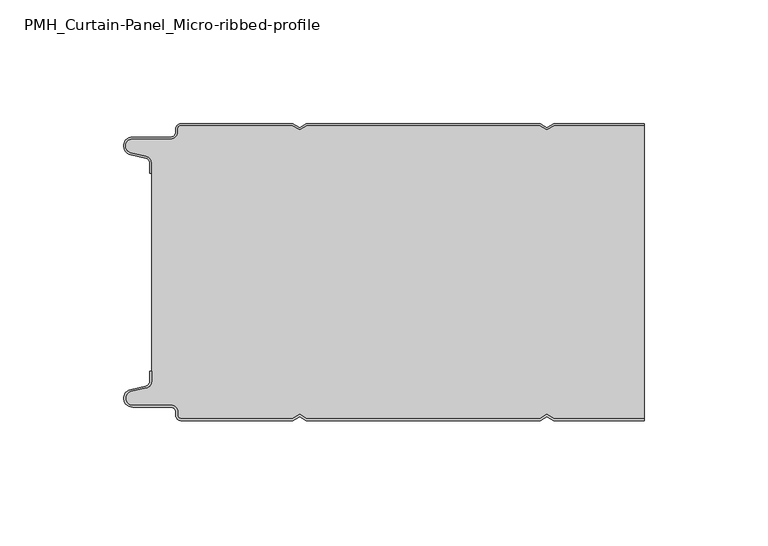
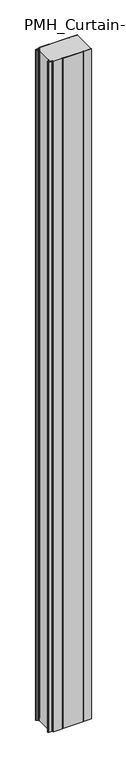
"""IFC4 building model written with IfcOpenShell, lengths in millimetres: plate geometry, PMH_Curtain-Panel_Micro-ribbed-profile : ACH_PMH_Acoustic-Sectioning-Panel_120M."""

from ifc_helpers import new_model, si_unit, point, frame_2d, origin, origin_with_axes, place, context, project, spatial, polyline, circle_curve, trimmed, segment, composite_curve, outline, extrude, source, transform, mapped, element, save


def pmh_curtain_panel_micro_ribbed_profile_76bfd1a1(model_context):
    return source(origin(), model_context, "Body", "SweptSolid", [
        extrude(outline(composite_curve([segment(polyline([(-100.0, 15.878557), (-100.0, 20.0), (-99.2, 20.0), (-99.2, 15.878557)]), True, "CONTINUOUS"), segment(trimmed(circle_curve(frame_2d((-102.0, 15.878557)), 2.8), [point((-99.2, 15.878557))], [point((-101.370137, 13.1503208))], False, "CARTESIAN"), True, "CONTINUOUS"), segment(polyline([(-101.370137, 13.1503208), (-107.529863, 11.728236)]), True, "CONTINUOUS"), segment(trimmed(circle_curve(frame_2d((-106.9, 9.0)), 2.8), [point((-107.529863, 11.728236))], [point((-106.9, 6.2))], True, "CARTESIAN"), True, "CONTINUOUS"), segment(polyline([(-106.9, 6.2), (-91.4, 6.2)]), True, "CONTINUOUS"), segment(trimmed(circle_curve(frame_2d((-91.4, 3.4)), 2.8), [point((-91.4, 6.2))], [point((-88.6, 3.4))], False, "CARTESIAN"), True, "CONTINUOUS"), segment(polyline([(-88.6, 3.4), (-88.6, 2.0)]), True, "CONTINUOUS"), segment(trimmed(circle_curve(frame_2d((-87.4, 2.0)), 1.2), [point((-88.6, 2.0))], [point((-87.4, 0.8))], True, "CARTESIAN"), True, "CONTINUOUS"), segment(polyline([(-87.4, 0.8), (-42.3143588, 0.8), (-39.4, 2.482606), (-36.4856412, 0.8), (57.6856412, 0.8), (60.6, 2.482606), (63.5143588, 0.8), (100.0, 0.8), (100.0, 0.0), (63.2999995, 0.0), (60.6, 1.5588455), (57.9000005, 0.0), (-36.7000005, 0.0), (-39.4, 1.5588455), (-42.0999995, 0.0), (-87.4, 0.0)]), True, "CONTINUOUS"), segment(trimmed(circle_curve(frame_2d((-87.4, 2.0)), 2.0), [point((-87.4, 0.0))], [point((-89.4, 2.0))], False, "CARTESIAN"), True, "CONTINUOUS"), segment(polyline([(-89.4, 2.0), (-89.4, 3.4)]), True, "CONTINUOUS"), segment(trimmed(circle_curve(frame_2d((-91.4, 3.4)), 2.0), [point((-89.4, 3.4))], [point((-91.4, 5.4))], True, "CARTESIAN"), True, "CONTINUOUS"), segment(polyline([(-91.4, 5.4), (-106.9, 5.4)]), True, "CONTINUOUS"), segment(trimmed(circle_curve(frame_2d((-106.9, 9.0)), 3.6), [point((-106.9, 5.4))], [point((-107.7098239, 12.5077322))], False, "CARTESIAN"), True, "CONTINUOUS"), segment(polyline([(-107.7098239, 12.5077322), (-101.5500979, 13.929817)]), True, "CONTINUOUS"), segment(trimmed(circle_curve(frame_2d((-102.0, 15.878557)), 2.0), [point((-101.5500979, 13.929817))], [point((-100.0, 15.878557))], True, "CARTESIAN"), True, "CONTINUOUS")], self_intersect=False)), origin_with_axes(), (0.0, 0.0, 1.0), 3500.0),
        extrude(outline(composite_curve([segment(trimmed(circle_curve(frame_2d((-102.0, 104.1214426)), 2.8), [point((-99.2, 104.1214426))], [point((-101.370137, 106.8496788))], True, "CARTESIAN"), True, "CONTINUOUS"), segment(polyline([(-101.370137, 106.8496788), (-107.5298631, 108.2717638)]), True, "CONTINUOUS"), segment(trimmed(circle_curve(frame_2d((-106.9, 111.0)), 2.8), [point((-107.5298631, 108.2717638))], [point((-106.9, 113.8))], False, "CARTESIAN"), True, "CONTINUOUS"), segment(polyline([(-106.9, 113.8), (-91.4000001, 113.8)]), True, "CONTINUOUS"), segment(trimmed(circle_curve(frame_2d((-91.4000001, 116.6)), 2.8), [point((-91.4000001, 113.8))], [point((-88.6000001, 116.6))], True, "CARTESIAN"), True, "CONTINUOUS"), segment(polyline([(-88.6000001, 116.6), (-88.6000001, 118.0)]), True, "CONTINUOUS"), segment(trimmed(circle_curve(frame_2d((-87.4000001, 118.0)), 1.2), [point((-88.6000001, 118.0))], [point((-87.4000001, 119.2))], False, "CARTESIAN"), True, "CONTINUOUS"), segment(polyline([(-87.4000001, 119.2), (-42.3143589, 119.2), (-39.4000001, 117.517394), (-36.4856412, 119.2), (57.6856411, 119.2), (60.5999999, 117.517394), (63.5143588, 119.2), (100.0, 119.2), (100.0, 0.8), (63.5143588, 0.8), (60.5999999, 2.482606), (57.6856411, 0.8), (-36.4856412, 0.8), (-39.4000001, 2.482606), (-42.3143589, 0.8), (-87.4000001, 0.8)]), True, "CONTINUOUS"), segment(trimmed(circle_curve(frame_2d((-87.4000001, 2.0)), 1.2), [point((-87.4000001, 0.8))], [point((-88.6000001, 2.0))], False, "CARTESIAN"), True, "CONTINUOUS"), segment(polyline([(-88.6000001, 2.0), (-88.6000001, 3.4)]), True, "CONTINUOUS"), segment(trimmed(circle_curve(frame_2d((-91.4000001, 3.4)), 2.8), [point((-88.6000001, 3.4))], [point((-91.4000001, 6.2))], True, "CARTESIAN"), True, "CONTINUOUS"), segment(polyline([(-91.4000001, 6.2), (-106.9, 6.2)]), True, "CONTINUOUS"), segment(trimmed(circle_curve(frame_2d((-106.9, 9.0)), 2.8), [point((-106.9, 6.2))], [point((-107.5298631, 11.7282362))], False, "CARTESIAN"), True, "CONTINUOUS"), segment(polyline([(-107.5298631, 11.7282362), (-101.370137, 13.1503212)]), True, "CONTINUOUS"), segment(trimmed(circle_curve(frame_2d((-102.0, 15.8785573)), 2.8), [point((-101.370137, 13.1503212))], [point((-99.2, 15.8785573))], True, "CARTESIAN"), True, "CONTINUOUS"), segment(polyline([(-99.2, 15.8785573), (-99.2, 104.1214426)]), True, "CONTINUOUS")], self_intersect=False)), origin_with_axes(), (0.0, 0.0, 1.0), 3500.0),
        extrude(outline(composite_curve([segment(trimmed(circle_curve(frame_2d((-102.0, 104.121443)), 2.0), [point((-100.0, 104.121443))], [point((-101.5500978, 106.0701831))], True, "CARTESIAN"), True, "CONTINUOUS"), segment(polyline([(-101.5500978, 106.0701831), (-107.7098239, 107.492268)]), True, "CONTINUOUS"), segment(trimmed(circle_curve(frame_2d((-106.9, 111.0)), 3.6), [point((-107.7098239, 107.492268))], [point((-106.9, 114.6))], False, "CARTESIAN"), True, "CONTINUOUS"), segment(polyline([(-106.9, 114.6), (-91.4, 114.6)]), True, "CONTINUOUS"), segment(trimmed(circle_curve(frame_2d((-91.4, 116.6)), 2.0), [point((-91.4, 114.6))], [point((-89.4, 116.6))], True, "CARTESIAN"), True, "CONTINUOUS"), segment(polyline([(-89.4, 116.6), (-89.4, 118.0)]), True, "CONTINUOUS"), segment(trimmed(circle_curve(frame_2d((-87.4, 118.0)), 2.0), [point((-89.4, 118.0))], [point((-87.4, 120.0))], False, "CARTESIAN"), True, "CONTINUOUS"), segment(polyline([(-87.4, 120.0), (-42.0999995, 120.0), (-39.4, 118.4411545), (-36.7000005, 120.0), (57.9000005, 120.0), (60.6, 118.4411545), (63.2999995, 120.0), (100.0, 120.0), (100.0, 119.2), (63.5143588, 119.2), (60.6, 117.517394), (57.6856412, 119.2), (-36.4856412, 119.2), (-39.4, 117.517394), (-42.3143588, 119.2), (-87.4, 119.2)]), True, "CONTINUOUS"), segment(trimmed(circle_curve(frame_2d((-87.4, 118.0)), 1.2), [point((-87.4, 119.2))], [point((-88.6, 118.0))], True, "CARTESIAN"), True, "CONTINUOUS"), segment(polyline([(-88.6, 118.0), (-88.6, 116.6)]), True, "CONTINUOUS"), segment(trimmed(circle_curve(frame_2d((-91.4, 116.6)), 2.8), [point((-88.6, 116.6))], [point((-91.4, 113.8))], False, "CARTESIAN"), True, "CONTINUOUS"), segment(polyline([(-91.4, 113.8), (-106.9, 113.8)]), True, "CONTINUOUS"), segment(trimmed(circle_curve(frame_2d((-106.9, 111.0)), 2.8), [point((-106.9, 113.8))], [point((-107.529863, 108.2717638))], True, "CARTESIAN"), True, "CONTINUOUS"), segment(polyline([(-107.529863, 108.2717638), (-101.370137, 106.849679)]), True, "CONTINUOUS"), segment(trimmed(circle_curve(frame_2d((-102.0, 104.121443)), 2.8), [point((-101.370137, 106.849679))], [point((-99.2, 104.121443))], False, "CARTESIAN"), True, "CONTINUOUS"), segment(polyline([(-99.2, 104.121443), (-99.2, 100.0), (-100.0, 100.0), (-100.0, 104.121443)]), True, "CONTINUOUS")], self_intersect=False)), origin_with_axes(), (0.0, 0.0, 1.0), 3500.0),
    ])


if __name__ == "__main__":
    model = new_model("IFC4")
    model_context = context("Model", 3, world=origin())
    ifc_project = project(units=[si_unit("LENGTHUNIT", "METRE", prefix="MILLI")], contexts=[model_context])
    site = spatial("IfcSite", under=ifc_project)
    building = spatial("IfcBuilding", under=site)
    placement = place(None, origin())
    pmh_curtain_panel_micro_ribbed_profile_shape = pmh_curtain_panel_micro_ribbed_profile_76bfd1a1(model_context)
    element("IfcPlate", 1, ObjectType="PMH_Curtain-Panel_Micro-ribbed-profile : ACH_PMH_Acoustic-Sectioning-Panel_120M", at=placement, inside=building, context=model_context, shape_type="MappedRepresentation", body=[
        mapped(pmh_curtain_panel_micro_ribbed_profile_shape, transform((0.0, 0.0, 0.0), x_axis=(1.0, 0.0, 0.0), y_axis=(0.0, 1.0, 0.0), z_axis=(0.0, 0.0, 1.0))),
    ])
    save(model, "model.ifc")
